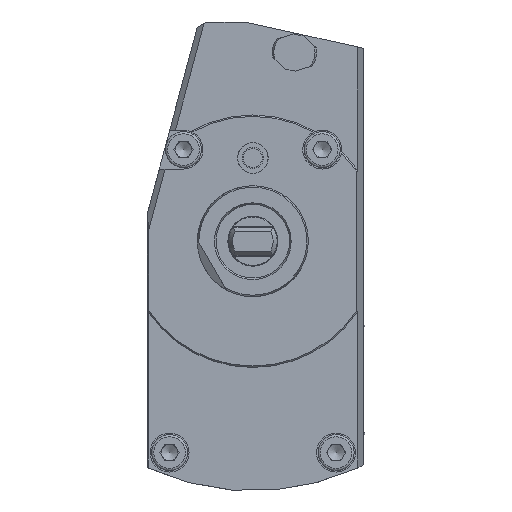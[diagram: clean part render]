
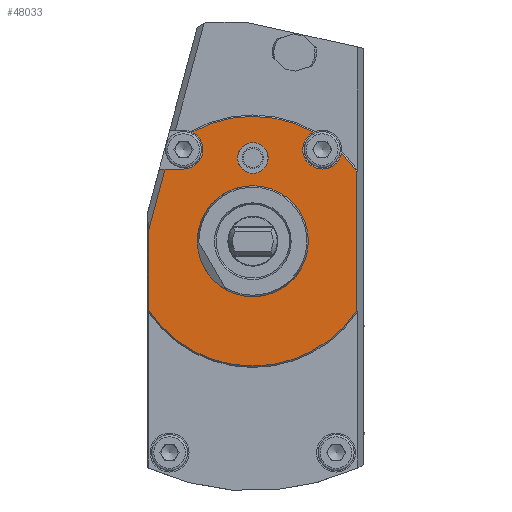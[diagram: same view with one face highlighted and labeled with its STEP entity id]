
A CAD part, left-side view. The second image highlights one B-rep face of the part: STEP entity #48033.
In plain terms, the highlighted planar face has unit normal (-1, 0, 0).
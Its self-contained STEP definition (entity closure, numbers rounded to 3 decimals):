
#20125=VECTOR('',#30897,1.);
#20126=VECTOR('',#30900,1.);
#20127=VECTOR('',#30907,1.);
#20128=VECTOR('',#30908,1.);
#21036=LINE('',#34612,#20125);
#21037=LINE('',#34616,#20126);
#21038=LINE('',#34623,#20127);
#21039=LINE('',#34624,#20128);
#22411=ORIENTED_EDGE('',*,*,#27241,.F.);
#22412=ORIENTED_EDGE('',*,*,#27242,.F.);
#22413=ORIENTED_EDGE('',*,*,#27243,.F.);
#22414=ORIENTED_EDGE('',*,*,#27244,.F.);
#22415=ORIENTED_EDGE('',*,*,#27245,.F.);
#22416=ORIENTED_EDGE('',*,*,#27246,.F.);
#22417=ORIENTED_EDGE('',*,*,#27238,.F.);
#22418=ORIENTED_EDGE('',*,*,#27247,.F.);
#22419=ORIENTED_EDGE('',*,*,#27248,.F.);
#22420=ORIENTED_EDGE('',*,*,#27249,.T.);
#22421=ORIENTED_EDGE('',*,*,#27250,.T.);
#25524=CIRCLE('',#46470,7.);
#25525=CIRCLE('',#46472,45.);
#25526=CIRCLE('',#46473,45.);
#25527=CIRCLE('',#46474,7.);
#25528=CIRCLE('',#46475,45.);
#25529=CIRCLE('',#46476,5.55);
#25530=CIRCLE('',#46477,19.853);
#26038=VERTEX_POINT('',#34599);
#26039=VERTEX_POINT('',#34600);
#26040=VERTEX_POINT('',#34610);
#26041=VERTEX_POINT('',#34611);
#26042=VERTEX_POINT('',#34613);
#26043=VERTEX_POINT('',#34615);
#26044=VERTEX_POINT('',#34617);
#26045=VERTEX_POINT('',#34619);
#26046=VERTEX_POINT('',#34622);
#26047=VERTEX_POINT('',#34625);
#26048=VERTEX_POINT('',#34627);
#27238=EDGE_CURVE('',#26038,#26039,#25524,.T.);
#27241=EDGE_CURVE('',#26040,#26041,#21036,.T.);
#27242=EDGE_CURVE('',#26042,#26040,#25525,.T.);
#27243=EDGE_CURVE('',#26043,#26042,#21037,.T.);
#27244=EDGE_CURVE('',#26044,#26043,#25526,.T.);
#27245=EDGE_CURVE('',#26045,#26044,#25527,.T.);
#27246=EDGE_CURVE('',#26039,#26045,#25528,.T.);
#27247=EDGE_CURVE('',#26046,#26038,#21038,.T.);
#27248=EDGE_CURVE('',#26041,#26046,#21039,.T.);
#27249=EDGE_CURVE('',#26047,#26047,#25529,.T.);
#27250=EDGE_CURVE('',#26048,#26048,#25530,.T.);
#28812=EDGE_LOOP('',(#22411,#22412,#22413,#22414,#22415,#22416,#22417,#22418,
#22419));
#28813=EDGE_LOOP('',(#22420));
#28814=EDGE_LOOP('',(#22421));
#29741=FACE_BOUND('',#28812,.T.);
#29742=FACE_BOUND('',#28813,.T.);
#29743=FACE_BOUND('',#28814,.T.);
#30892=DIRECTION('',(-1.,0.,0.));
#30893=DIRECTION('',(0.,0.,-7.));
#30895=DIRECTION('',(-1.,0.,0.));
#30896=DIRECTION('',(0.,1.,0.));
#30897=DIRECTION('',(0.,0.,29.013));
#30898=DIRECTION('',(1.,0.,0.));
#30899=DIRECTION('',(0.,-37.5,-24.875));
#30900=DIRECTION('',(0.,0.,-49.749));
#30901=DIRECTION('',(1.,0.,0.));
#30902=DIRECTION('',(0.,-31.888,31.752));
#30903=DIRECTION('',(-1.,0.,0.));
#30904=DIRECTION('',(0.,3.066,6.293));
#30905=DIRECTION('',(1.,0.,0.));
#30906=DIRECTION('',(0.,21.934,39.293));
#30907=DIRECTION('',(0.,-6.642,0.));
#30908=DIRECTION('',(0.,-5.858,21.861));
#30909=DIRECTION('',(1.,0.,0.));
#30910=DIRECTION('',(0.,-5.55,0.));
#30911=DIRECTION('',(1.,0.,0.));
#30912=DIRECTION('',(0.,0.,19.853));
#34599=CARTESIAN_POINT('',(0.,25.,26.));
#34600=CARTESIAN_POINT('',(0.,21.934,39.293));
#34601=CARTESIAN_POINT('',(0.,25.,33.));
#34609=CARTESIAN_POINT('',(0.,38.,10.));
#34610=CARTESIAN_POINT('',(0.,37.5,-24.875));
#34611=CARTESIAN_POINT('',(0.,37.5,4.139));
#34612=CARTESIAN_POINT('',(0.,37.5,-24.875));
#34613=CARTESIAN_POINT('',(0.,-37.5,-24.875));
#34614=CARTESIAN_POINT('',(0.,0.,0.));
#34615=CARTESIAN_POINT('',(0.,-37.5,24.875));
#34616=CARTESIAN_POINT('',(0.,-37.5,24.875));
#34617=CARTESIAN_POINT('',(0.,-31.888,31.752));
#34618=CARTESIAN_POINT('',(0.,0.,0.));
#34619=CARTESIAN_POINT('',(0.,-21.934,39.293));
#34620=CARTESIAN_POINT('',(0.,-25.,33.));
#34621=CARTESIAN_POINT('',(0.,0.,0.));
#34622=CARTESIAN_POINT('',(0.,31.642,26.));
#34623=CARTESIAN_POINT('',(0.,31.642,26.));
#34624=CARTESIAN_POINT('',(0.,37.5,4.139));
#34625=CARTESIAN_POINT('',(0.,-5.55,30.));
#34626=CARTESIAN_POINT('',(0.,0.,30.));
#34627=CARTESIAN_POINT('',(0.,0.,19.853));
#34628=CARTESIAN_POINT('',(0.,0.,0.));
#46470=AXIS2_PLACEMENT_3D('',#34601,#30892,#30893);
#46471=AXIS2_PLACEMENT_3D('',#34609,#30895,#30896);
#46472=AXIS2_PLACEMENT_3D('',#34614,#30898,#30899);
#46473=AXIS2_PLACEMENT_3D('',#34618,#30901,#30902);
#46474=AXIS2_PLACEMENT_3D('',#34620,#30903,#30904);
#46475=AXIS2_PLACEMENT_3D('',#34621,#30905,#30906);
#46476=AXIS2_PLACEMENT_3D('',#34626,#30909,#30910);
#46477=AXIS2_PLACEMENT_3D('',#34628,#30911,#30912);
#47595=PLANE('',#46471);
#48033=ADVANCED_FACE('',(#29741,#29742,#29743),#47595,.T.);
